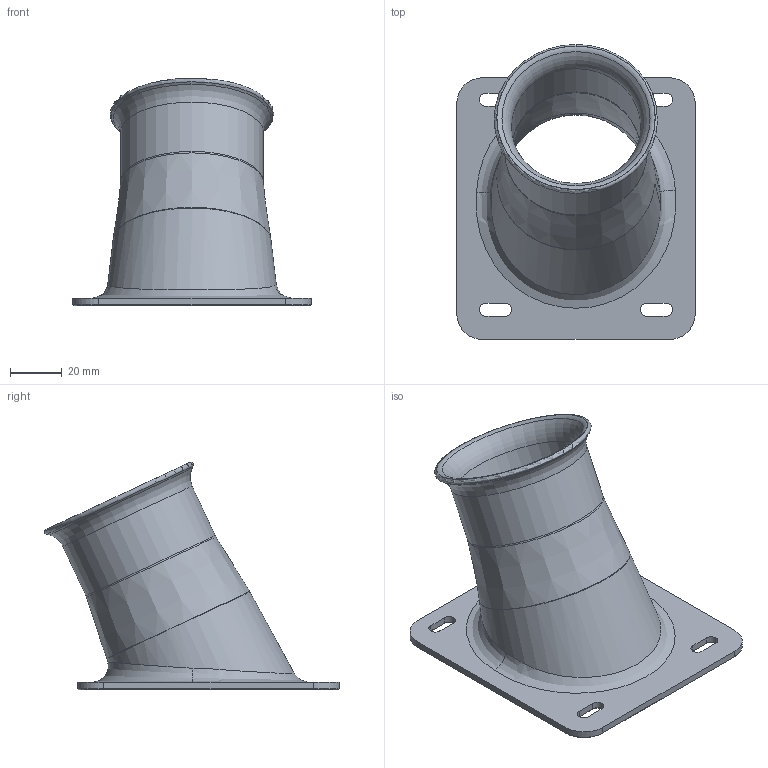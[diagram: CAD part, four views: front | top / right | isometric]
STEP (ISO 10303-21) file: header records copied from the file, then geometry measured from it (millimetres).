
FILE_DESCRIPTION(/* description */ (''),/* implementation_level */ '2;1');
FILE_NAME(/* name */ '54731 - Dust Port.step',/* time_stamp */ '2025-10-28T15:43:20-05:00',/* author */ (''),/* organization */ (''),/* preprocessor_version */ 'ST-DEVELOPER v20.1',/* originating_system */ 'Autodesk Translation Framework v14.17.0.0',/* authorisation */ '');
FILE_SCHEMA (('AUTOMOTIVE_DESIGN { 1 0 10303 214 3 1 1 }'));
Length unit declared in the file: millimetre
Products named in the file (1): 54731 - Dust Port
Bounding box: 92 x 113.73 x 87.87 mm (x, y, z)
Volume: 51605.9 mm3; surface area: 40857.6 mm2
Topology: 1 solids, 1 shells, 75 faces, 206 edges, 130 vertices
Faces by surface type: plane 27, bspline 14, cone 14, cylinder 14, torus 6
Full cylindrical faces by diameter (mm): 50 x1, 55 x1
Entity records: 12170 total; most frequent: CARTESIAN_POINT 10257, ORIENTED_EDGE 404, DIRECTION 352, EDGE_CURVE 202, VERTEX_POINT 130, AXIS2_PLACEMENT_3D 130, LINE 92, VECTOR 92
